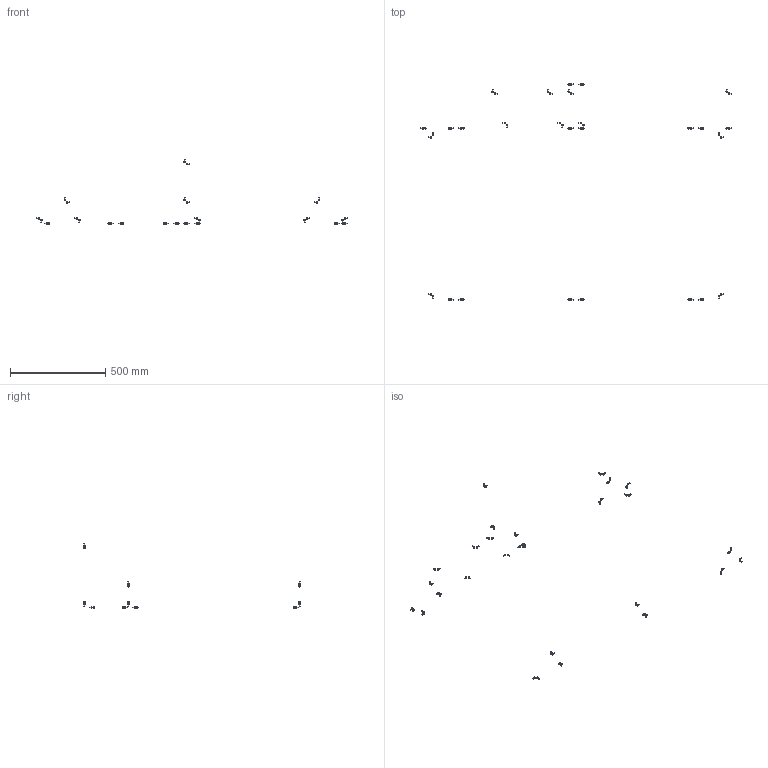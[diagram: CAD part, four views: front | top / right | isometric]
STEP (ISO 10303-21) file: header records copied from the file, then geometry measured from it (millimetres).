
FILE_DESCRIPTION(/* description */ (''),/* implementation_level */ '2;1');
FILE_NAME(/* name */ '1.frame-bottom#1.3#CB5-10',/* time_stamp */ '2014-12-01T20:10:45+01:00',/* author */ (''),/* organization */ (''),/* preprocessor_version */ 'ST-DEVELOPER v14',/* originating_system */ '',/* authorisation */ '');
FILE_SCHEMA (('AUTOMOTIVE_DESIGN'));
Length unit declared in the file: millimetre
Products named in the file (2): Document; screw DIN912-like, M5x10
Assembly tree (14 placements, depth 2):
  Document
    screw DIN912-like, M5x10  x14
Bounding box: 1631 x 1138.5 x 339.75 mm (x, y, z)
Volume: 23678.3 mm3; surface area: 23026.5 mm2
Topology: 54 solids, 54 shells, 1350 faces, 3024 edges, 1782 vertices
Faces by surface type: plane 810, bspline 540
Entity records: 55749 total; most frequent: CARTESIAN_POINT 25765, B_SPLINE_CURVE_WITH_KNOTS 5166, ORIENTED_EDGE 4428, PCURVE 4428, DEFINITIONAL_REPRESENTATION 4428, SURFACE_CURVE 2214, EDGE_CURVE 2214, VERTEX_POINT 1353
